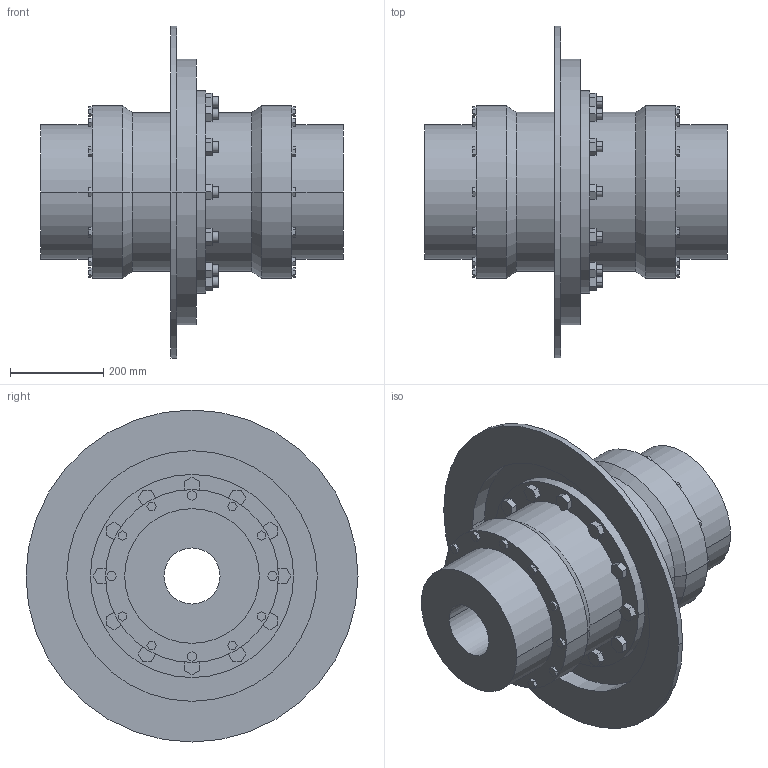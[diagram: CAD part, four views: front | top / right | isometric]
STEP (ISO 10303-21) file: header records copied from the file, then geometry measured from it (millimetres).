
FILE_DESCRIPTION((''),'2;1');
FILE_NAME('A19727800-0_ASM','2019-05-23T',('AB_Roschiwal'),('RENK AG'),'PRO/ENGINEER BY PARAMETRIC TECHNOLOGY CORPORATION, 2015440','PRO/ENGINEER BY PARAMETRIC TECHNOLOGY CORPORATION, 2015440','');
FILE_SCHEMA(('CONFIG_CONTROL_DESIGN'));
Length unit declared in the file: millimetre
Products named in the file (4): SBKT180_GEHAEUSE; SBKT180_NABE; SBKT180_BREMSSCHEIBE; A19727800-0_ASM
Assembly tree (4 placements, depth 2):
  A19727800-0_ASM
    SBKT180_GEHAEUSE
    SBKT180_NABE  x2
    SBKT180_BREMSSCHEIBE
Bounding box: 648 x 711 x 711 mm (x, y, z)
Volume: 42983550.1 mm3; surface area: 2923340.2 mm2
Topology: 4 solids, 4 shells, 470 faces, 1156 edges, 768 vertices
Faces by surface type: plane 370, cylinder 96, cone 4
Entity records: 13604 total; most frequent: CARTESIAN_POINT 2350, ORIENTED_EDGE 2264, DIRECTION 2240, EDGE_CURVE 1132, VECTOR 956, LINE 956, VERTEX_POINT 752, AXIS2_PLACEMENT_3D 642
